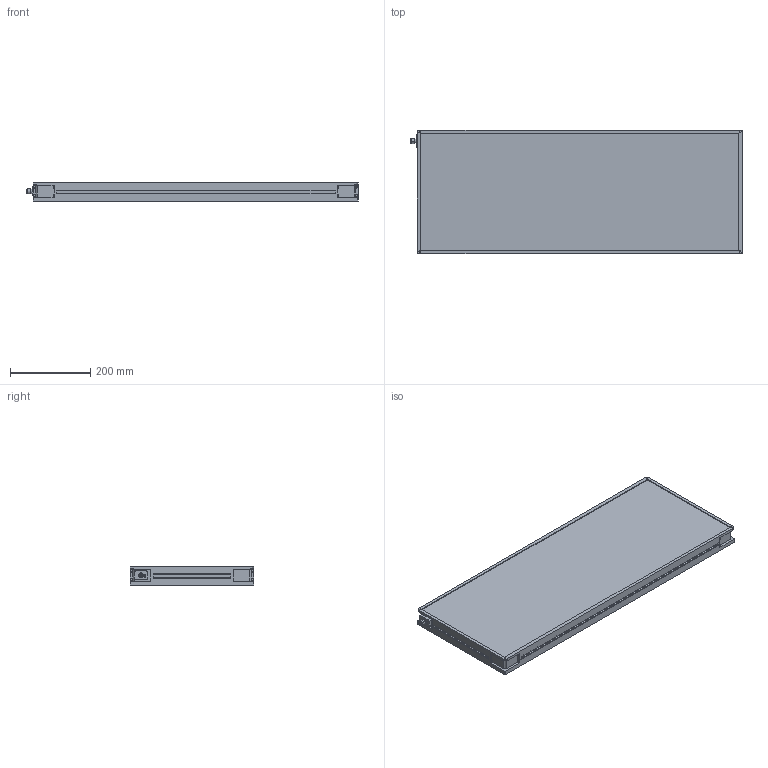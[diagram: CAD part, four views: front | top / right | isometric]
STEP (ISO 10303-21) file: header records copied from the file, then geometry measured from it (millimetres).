
FILE_DESCRIPTION (( 'STEP AP214' ), '1' );
FILE_NAME ('MBACK-xxxx-xxx-M1_CLIENT300x800.STEP', '2022-03-31T16:03:41', ( '' ), ( '' ), 'SwSTEP 2.0', 'SolidWorks 2020', '' );
FILE_SCHEMA (( 'AUTOMOTIVE_DESIGN' ));
Length unit declared in the file: millimetre
Products named in the file (1): MBACK-xxxx-xxx-M1_CLIENT300x800
Bounding box: 825.9 x 308 x 45.5 mm (x, y, z)
Volume: 10307383.6 mm3; surface area: 645797.4 mm2
Topology: 1 solids, 1 shells, 442 faces, 1144 edges, 760 vertices
Faces by surface type: plane 249, cylinder 105, bspline 80, cone 8
Entity records: 17236 total; most frequent: CARTESIAN_POINT 6699, ORIENTED_EDGE 2288, DIRECTION 1936, EDGE_CURVE 1144, VERTEX_POINT 760, VECTOR 758, LINE 758, AXIS2_PLACEMENT_3D 589
